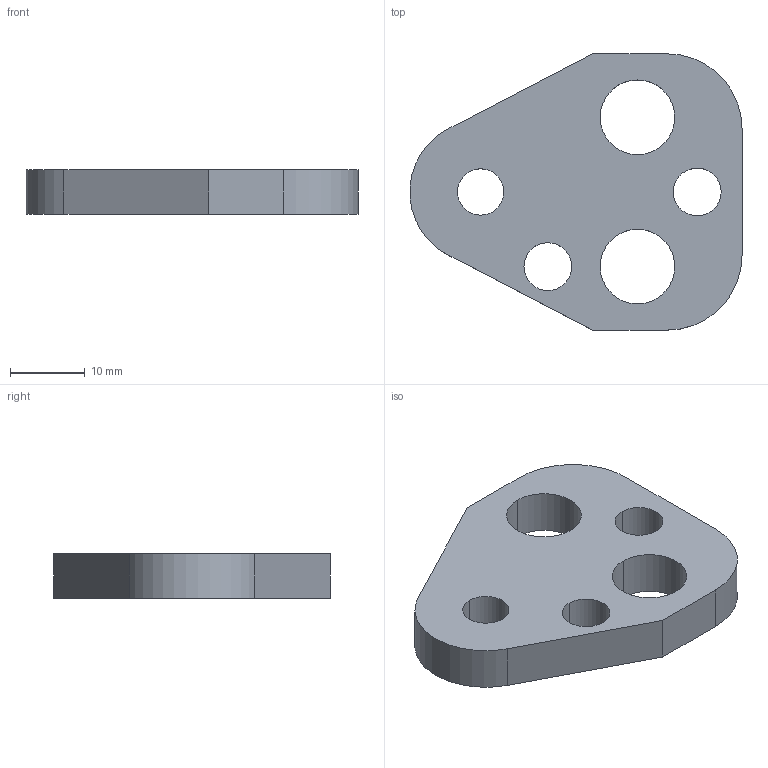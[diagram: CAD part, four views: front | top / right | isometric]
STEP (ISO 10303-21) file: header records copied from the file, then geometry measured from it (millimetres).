
FILE_DESCRIPTION(/* description */ (''),/* implementation_level */ '2;1');
FILE_NAME(/* name */ '3d_bpc10-6_03423_r00.stp',/* time_stamp */ '2011-01-10T14:17:11+09:00',/* author */ ('MISUMI'),/* organization */ (''),/* preprocessor_version */ 'ST-DEVELOPER v11',/* originating_system */ 'UGS - NX 5.0',/* authorisation */ '');
FILE_SCHEMA (('CONFIG_CONTROL_DESIGN'));
Length unit declared in the file: millimetre
Products named in the file (1): 3d_bpc10-6_03423_r00
Bounding box: 44.47 x 37 x 6 mm (x, y, z)
Volume: 6173.8 mm3; surface area: 3590.1 mm2
Topology: 1 solids, 1 shells, 20 faces, 54 edges, 36 vertices
Faces by surface type: cylinder 13, plane 7
Entity records: 750 total; most frequent: DIRECTION 122, CARTESIAN_POINT 111, ORIENTED_EDGE 108, EDGE_CURVE 54, AXIS2_PLACEMENT_3D 47, VERTEX_POINT 36, EDGE_LOOP 30, LINE 28
